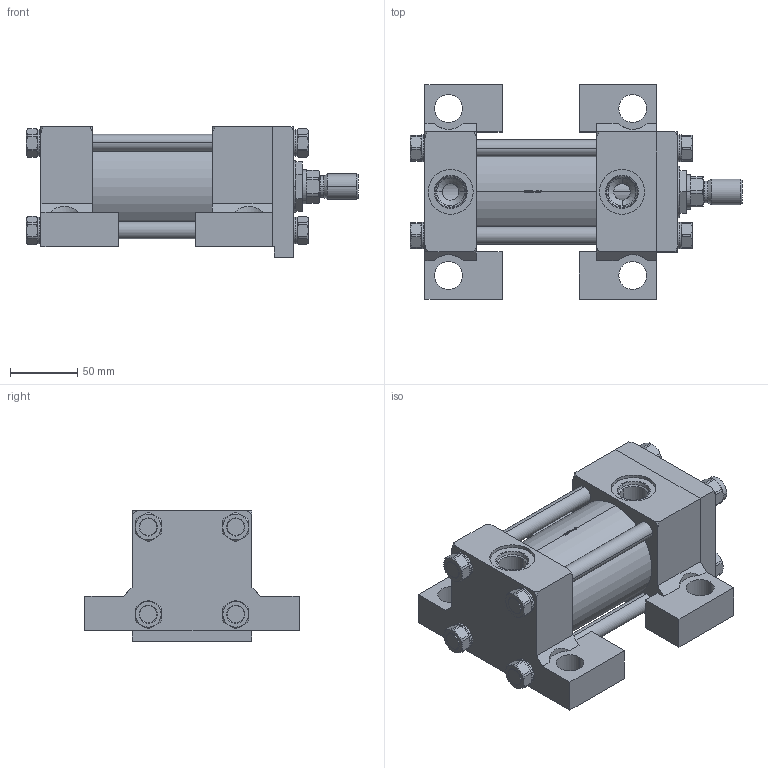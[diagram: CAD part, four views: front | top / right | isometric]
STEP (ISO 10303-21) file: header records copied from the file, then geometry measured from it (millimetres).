
FILE_DESCRIPTION (( 'STEP AP214' ), '1' );
FILE_NAME ('2.50CP2HHNAT114A2.000.step', '2026-03-26T21:16:27', ( '' ), ( '' ), 'SwSTEP 2.0', 'SolidWorks 2023', '' );
FILE_SCHEMA (( 'AUTOMOTIVE_DESIGN' ));
Length unit declared in the file: inch
Products named in the file (1): 2.50CP2HHNAT114A2.000
Bounding box: 246.06 x 158.75 x 96.84 mm (x, y, z)
Volume: 1268222.3 mm3; surface area: 276481.9 mm2
Topology: 46 solids, 46 shells, 1237 faces, 3184 edges, 2048 vertices
Faces by surface type: plane 803, cylinder 225, cone 163, bspline 38, torus 8
Entity records: 55750 total; most frequent: CARTESIAN_POINT 10953, ORIENTED_EDGE 6368, DIRECTION 5204, EDGE_CURVE 3184, VERTEX_POINT 2048, AXIS2_PLACEMENT_3D 1758, LINE 1688, VECTOR 1688
